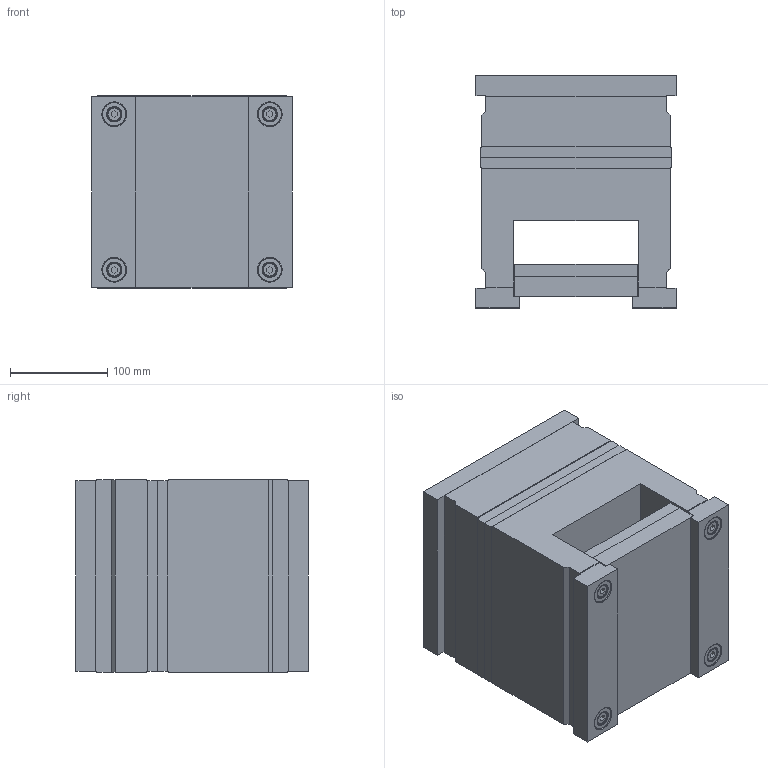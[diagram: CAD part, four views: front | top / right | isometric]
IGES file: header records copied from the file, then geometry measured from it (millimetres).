
Start section: SolidWorks IGES FILE using analytic representation for surfaces
Global section: file name: C:\Documents and Settings\K.P\My Documents\Mechanical\ALMO\CATL_EUR\RECT\1961.IGS; native system: SolidWorks 2001Plus by SolidWorks Corporation; preprocessor: Version 5.3; author: Pavel; date: 020709.091928; units: millimetre
Bounding box: 206 x 239 x 198 mm (x, y, z)
Surface area: 616494.9 mm2 (no closed solid volume)
Topology: 0 solids, 0 shells, 706 faces, 10312 edges, 10304 vertices
Faces by surface type: revolution 452, bspline 254
